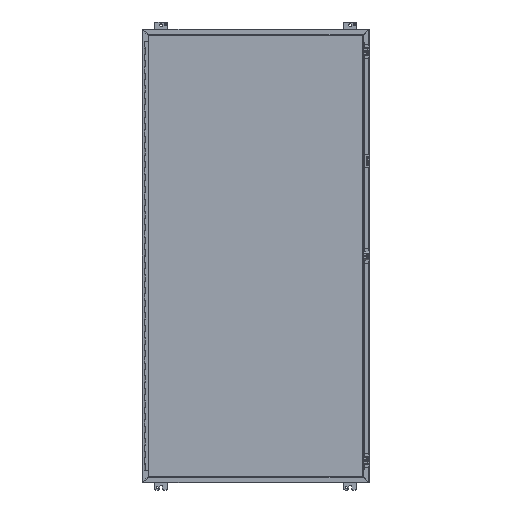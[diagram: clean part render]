
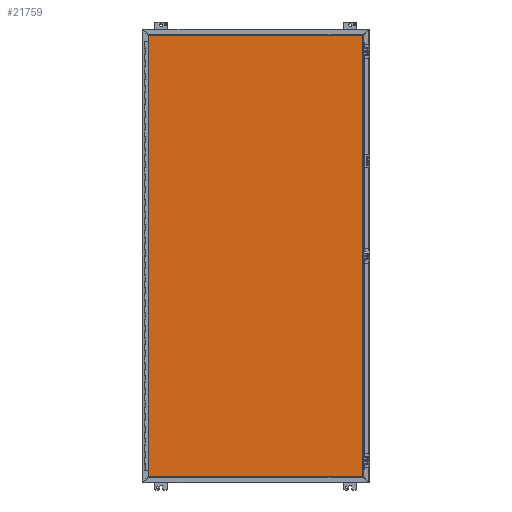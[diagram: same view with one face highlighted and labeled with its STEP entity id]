
A CAD part, front view. The second image highlights one B-rep face of the part: STEP entity #21759.
In plain terms, the highlighted planar face has unit normal (0, -1, 0).
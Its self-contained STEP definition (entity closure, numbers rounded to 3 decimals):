
#1178=LINE('',#33415,#3223);
#1179=LINE('',#33418,#3224);
#1180=LINE('',#33420,#3225);
#1181=LINE('',#33422,#3226);
#3223=VECTOR('',#25810,1000.);
#3224=VECTOR('',#25811,1000.);
#3225=VECTOR('',#25812,1000.);
#3226=VECTOR('',#25813,1000.);
#6561=ORIENTED_EDGE('',*,*,#12493,.T.);
#6562=ORIENTED_EDGE('',*,*,#12494,.T.);
#6563=ORIENTED_EDGE('',*,*,#12495,.T.);
#6564=ORIENTED_EDGE('',*,*,#12496,.T.);
#12493=EDGE_CURVE('',#15542,#15543,#1178,.T.);
#12494=EDGE_CURVE('',#15543,#15544,#1179,.T.);
#12495=EDGE_CURVE('',#15544,#15545,#1180,.T.);
#12496=EDGE_CURVE('',#15545,#15542,#1181,.T.);
#15542=VERTEX_POINT('',#33416);
#15543=VERTEX_POINT('',#33417);
#15544=VERTEX_POINT('',#33419);
#15545=VERTEX_POINT('',#33421);
#18332=EDGE_LOOP('',(#6561,#6562,#6563,#6564));
#19701=FACE_BOUND('',#18332,.T.);
#20972=PLANE('',#23223);
#21759=ADVANCED_FACE('',(#19701),#20972,.T.);
#23223=AXIS2_PLACEMENT_3D('',#33414,#25808,#25809);
#25808=DIRECTION('',(0.,-1.,0.));
#25809=DIRECTION('',(0.,0.,-1.));
#25810=DIRECTION('',(0.,0.,-1.));
#25811=DIRECTION('',(1.,0.,0.));
#25812=DIRECTION('',(0.,0.,1.));
#25813=DIRECTION('',(-1.,0.,0.));
#33414=CARTESIAN_POINT('',(-431.444,0.,-888.86));
#33415=CARTESIAN_POINT('',(-431.444,0.,888.86));
#33416=CARTESIAN_POINT('',(-431.444,0.,888.86));
#33417=CARTESIAN_POINT('',(-431.444,0.,-888.86));
#33418=CARTESIAN_POINT('',(-431.444,0.,-888.86));
#33419=CARTESIAN_POINT('',(431.444,0.,-888.86));
#33420=CARTESIAN_POINT('',(431.444,0.,-888.86));
#33421=CARTESIAN_POINT('',(431.444,0.,888.86));
#33422=CARTESIAN_POINT('',(431.444,0.,888.86));
